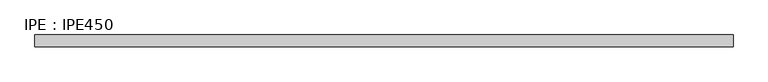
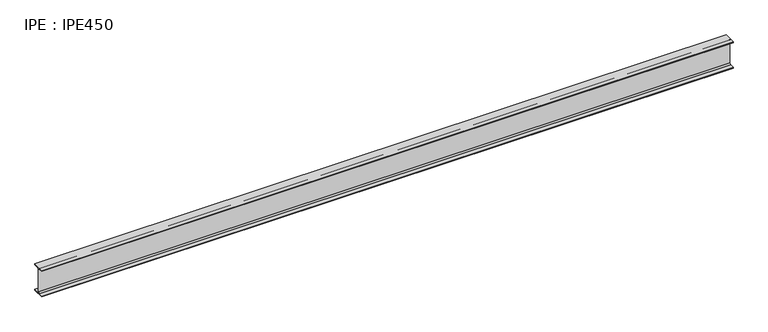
"""IFC4 building model written with IfcOpenShell, lengths in millimetres: beam geometry, IPE : IPE450."""

from ifc_helpers import new_model, si_unit, point, frame, frame_2d, origin, place, context, project, spatial, polyline, circle_curve, trimmed, segment, composite_curve, outline, extrude, source, transform, mapped, element, save


def ipe_ipe450_cd6ea38f(model_context):
    return source(origin(), model_context, "Body", "SweptSolid", [
        extrude(outline(composite_curve([segment(polyline([(95.0, -210.4), (95.0, -225.0), (-95.0, -225.0), (-95.0, -210.4), (-25.7, -210.4)]), True, "CONTINUOUS"), segment(trimmed(circle_curve(frame_2d((-25.7, -189.4)), 21.0), [point((-25.7, -210.4))], [point((-4.7, -189.4))], True, "CARTESIAN"), True, "CONTINUOUS"), segment(polyline([(-4.7, -189.4), (-4.7, 189.4)]), True, "CONTINUOUS"), segment(trimmed(circle_curve(frame_2d((-25.7, 189.4)), 21.0), [point((-4.7, 189.4))], [point((-25.7, 210.4))], True, "CARTESIAN"), True, "CONTINUOUS"), segment(polyline([(-25.7, 210.4), (-95.0, 210.4), (-95.0, 225.0), (95.0, 225.0), (95.0, 210.4), (25.7, 210.4)]), True, "CONTINUOUS"), segment(trimmed(circle_curve(frame_2d((25.7, 189.4)), 21.0), [point((25.7, 210.4))], [point((4.7, 189.4))], True, "CARTESIAN"), True, "CONTINUOUS"), segment(polyline([(4.7, 189.4), (4.7, -189.4)]), True, "CONTINUOUS"), segment(trimmed(circle_curve(frame_2d((25.7, -189.4)), 21.0), [point((4.7, -189.4))], [point((25.7, -210.4))], True, "CARTESIAN"), True, "CONTINUOUS"), segment(polyline([(25.7, -210.4), (95.0, -210.4)]), True, "CONTINUOUS")], self_intersect=False)), frame((-5584.4, 0.0, 0.0), z_axis=(1.0, 0.0, 0.0), x_axis=(0.0, 1.0, 0.0)), (0.0, 0.0, 1.0), 11168.8),
    ])


if __name__ == "__main__":
    model = new_model("IFC4")
    model_context = context("Model", 3, world=origin())
    ifc_project = project(units=[si_unit("LENGTHUNIT", "METRE", prefix="MILLI")], contexts=[model_context])
    site = spatial("IfcSite", under=ifc_project)
    building = spatial("IfcBuilding", under=site)
    placement = place(None, origin())
    ipe_ipe450_shape = ipe_ipe450_cd6ea38f(model_context)
    element("IfcBeam", 1, ObjectType="IPE : IPE450", at=placement, inside=building, context=model_context, shape_type="MappedRepresentation", body=[
        mapped(ipe_ipe450_shape, transform((0.0, 0.0, 0.0), x_axis=(1.0, 0.0, 0.0), y_axis=(0.0, 1.0, 0.0), z_axis=(0.0, 0.0, 1.0))),
    ])
    save(model, "model.ifc")
